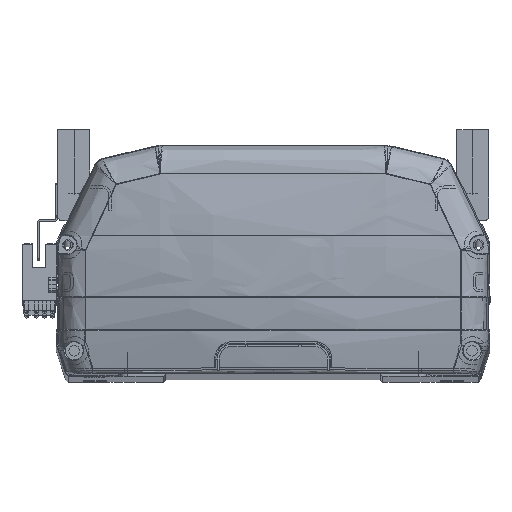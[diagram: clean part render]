
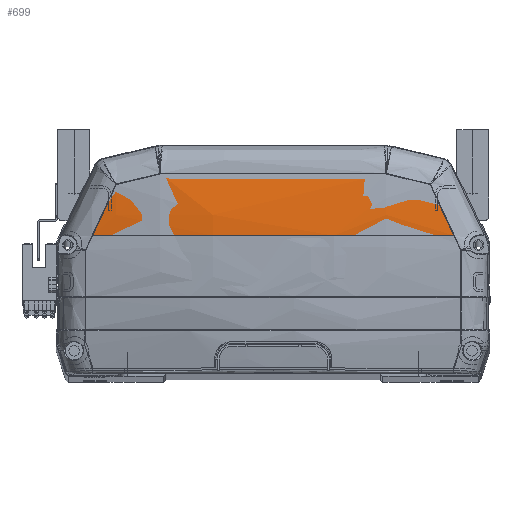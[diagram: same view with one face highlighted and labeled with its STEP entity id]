
A CAD part, top view. The second image highlights one B-rep face of the part: STEP entity #699.
In plain terms, the highlighted toroidal (fillet/blend) face has major radius 312.5 mm and minor radius 572.4 mm.
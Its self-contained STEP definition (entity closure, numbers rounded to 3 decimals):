
#699 = ADVANCED_FACE ( 'NONE', ( #41489 ), #35344, .T. ) ;
#774 = CARTESIAN_POINT ( 'NONE',  ( 44.331, 79.443, -2.97 ) ) ;
#2563 = CARTESIAN_POINT ( 'NONE',  ( -71.027, 55.096, -4.524 ) ) ;
#2972 = CARTESIAN_POINT ( 'NONE',  ( -44.331, 79.443, -2.97 ) ) ;
#3192 = CARTESIAN_POINT ( 'NONE',  ( -63.264, 71.911, -4.135 ) ) ;
#6627 = CARTESIAN_POINT ( 'NONE',  ( -67.917, 61.816, -4.208 ) ) ;
#8204 = CARTESIAN_POINT ( 'NONE',  ( -44.331, 79.443, -2.97 ) ) ;
#10236 = CARTESIAN_POINT ( 'NONE',  ( -44.331, 79.443, -2.97 ) ) ;
#11145 = B_SPLINE_CURVE_WITH_KNOTS ( 'NONE', 3,
 ( #8204, #21036, #21309, #40691, #24432, #34428 ),
 .UNSPECIFIED., .F., .F.,
 ( 4, 2, 4 ),
 ( 0., 0.044, 0.089 ),
 .UNSPECIFIED. ) ;
#11173 = EDGE_CURVE ( 'NONE', #27724, #14400, #29141, .T. ) ;
#11626 = DIRECTION ( 'NONE',  ( 1., 0., 0. ) ) ;
#13552 = CARTESIAN_POINT ( 'NONE',  ( 67.917, 61.809, -4.135 ) ) ;
#13819 = EDGE_CURVE ( 'NONE', #37763, #30035, #22201, .T. ) ;
#14400 = VERTEX_POINT ( 'NONE', #17646 ) ;
#14723 = AXIS2_PLACEMENT_3D ( 'NONE', #39748, #17091, #17234 ) ;
#15478 = DIRECTION ( 'NONE',  ( 0., 0., -1. ) ) ;
#15880 = ORIENTED_EDGE ( 'NONE', *, *, #35734, .F. ) ;
#16296 = B_SPLINE_CURVE_WITH_KNOTS ( 'NONE', 3,
 ( #38193, #32203, #22507, #2972 ),
 .UNSPECIFIED., .F., .F.,
 ( 4, 4 ),
 ( 0., 0.018 ),
 .UNSPECIFIED. ) ;
#16562 = CARTESIAN_POINT ( 'NONE',  ( 61.718, 75.278, -4.232 ) ) ;
#16867 = CARTESIAN_POINT ( 'NONE',  ( -61.718, 75.278, -4.232 ) ) ;
#17091 = DIRECTION ( 'NONE',  ( 0., 1., 0. ) ) ;
#17234 = DIRECTION ( 'NONE',  ( 0., 0., 1. ) ) ;
#17646 = CARTESIAN_POINT ( 'NONE',  ( 71.027, 55.096, -4.524 ) ) ;
#17773 = ORIENTED_EDGE ( 'NONE', *, *, #35922, .T. ) ;
#21036 = CARTESIAN_POINT ( 'NONE',  ( -29.579, 79.39, -1.814 ) ) ;
#21309 = CARTESIAN_POINT ( 'NONE',  ( -14.788, 79.361, -1.235 ) ) ;
#21577 = ORIENTED_EDGE ( 'NONE', *, *, #13819, .F. ) ;
#22201 = B_SPLINE_CURVE_WITH_KNOTS ( 'NONE', 3,
 ( #26540, #25978, #6627, #29803, #3192, #16867 ),
 .UNSPECIFIED., .F., .F.,
 ( 4, 2, 4 ),
 ( 0.006, 0.017, 0.029 ),
 .UNSPECIFIED. ) ;
#22507 = CARTESIAN_POINT ( 'NONE',  ( -50.132, 78.049, -3.29 ) ) ;
#23560 = CARTESIAN_POINT ( 'NONE',  ( 61.718, 75.278, -4.232 ) ) ;
#24432 = CARTESIAN_POINT ( 'NONE',  ( 29.579, 79.389, -1.814 ) ) ;
#25978 = CARTESIAN_POINT ( 'NONE',  ( -69.472, 58.454, -4.329 ) ) ;
#26540 = CARTESIAN_POINT ( 'NONE',  ( -71.027, 55.096, -4.524 ) ) ;
#26613 = CARTESIAN_POINT ( 'NONE',  ( 61.718, 75.278, -4.232 ) ) ;
#27724 = VERTEX_POINT ( 'NONE', #16562 ) ;
#28402 = CARTESIAN_POINT ( 'NONE',  ( 44.331, 79.443, -2.97 ) ) ;
#29141 = B_SPLINE_CURVE_WITH_KNOTS ( 'NONE', 3,
 ( #26613, #29877, #13552, #30011 ),
 .UNSPECIFIED., .F., .F.,
 ( 4, 4 ),
 ( 0., 0.022 ),
 .UNSPECIFIED. ) ;
#29403 = VERTEX_POINT ( 'NONE', #28402 ) ;
#29803 = CARTESIAN_POINT ( 'NONE',  ( -64.813, 68.545, -4.11 ) ) ;
#29877 = CARTESIAN_POINT ( 'NONE',  ( 64.811, 68.545, -4.037 ) ) ;
#30011 = CARTESIAN_POINT ( 'NONE',  ( 71.027, 55.096, -4.524 ) ) ;
#30035 = VERTEX_POINT ( 'NONE', #39639 ) ;
#31532 = ORIENTED_EDGE ( 'NONE', *, *, #37366, .F. ) ;
#31858 = AXIS2_PLACEMENT_3D ( 'NONE', #34992, #11626, #15478 ) ;
#32203 = CARTESIAN_POINT ( 'NONE',  ( -55.929, 76.661, -3.711 ) ) ;
#32312 = VERTEX_POINT ( 'NONE', #10236 ) ;
#33230 = B_SPLINE_CURVE_WITH_KNOTS ( 'NONE', 3,
 ( #774, #36534, #36670, #23560 ),
 .UNSPECIFIED., .F., .F.,
 ( 4, 4 ),
 ( 0., 0.018 ),
 .UNSPECIFIED. ) ;
#34428 = CARTESIAN_POINT ( 'NONE',  ( 44.331, 79.443, -2.97 ) ) ;
#34660 = ORIENTED_EDGE ( 'NONE', *, *, #11173, .F. ) ;
#34772 = ORIENTED_EDGE ( 'NONE', *, *, #39964, .F. ) ;
#34992 = CARTESIAN_POINT ( 'NONE',  ( 0., 55.096, -260. ) ) ;
#35344 = TOROIDAL_SURFACE ( 'NONE', #31858, -312.5, 572.4 ) ;
#35734 = EDGE_CURVE ( 'NONE', #30035, #32312, #16296, .T. ) ;
#35922 = EDGE_CURVE ( 'NONE', #37763, #14400, #38709, .T. ) ;
#36534 = CARTESIAN_POINT ( 'NONE',  ( 50.132, 78.049, -3.29 ) ) ;
#36670 = CARTESIAN_POINT ( 'NONE',  ( 55.929, 76.66, -3.711 ) ) ;
#37366 = EDGE_CURVE ( 'NONE', #29403, #27724, #33230, .T. ) ;
#37763 = VERTEX_POINT ( 'NONE', #2563 ) ;
#38193 = CARTESIAN_POINT ( 'NONE',  ( -61.718, 75.278, -4.232 ) ) ;
#38709 = CIRCLE ( 'NONE', #14723, 572.4 ) ;
#39103 = EDGE_LOOP ( 'NONE', ( #21577, #17773, #34660, #31532, #34772, #15880 ) ) ;
#39639 = CARTESIAN_POINT ( 'NONE',  ( -61.718, 75.278, -4.232 ) ) ;
#39748 = CARTESIAN_POINT ( 'NONE',  ( 0., 55.096, -572.5 ) ) ;
#39964 = EDGE_CURVE ( 'NONE', #32312, #29403, #11145, .T. ) ;
#40691 = CARTESIAN_POINT ( 'NONE',  ( 14.805, 79.361, -1.235 ) ) ;
#41489 = FACE_OUTER_BOUND ( 'NONE', #39103, .T. ) ;
